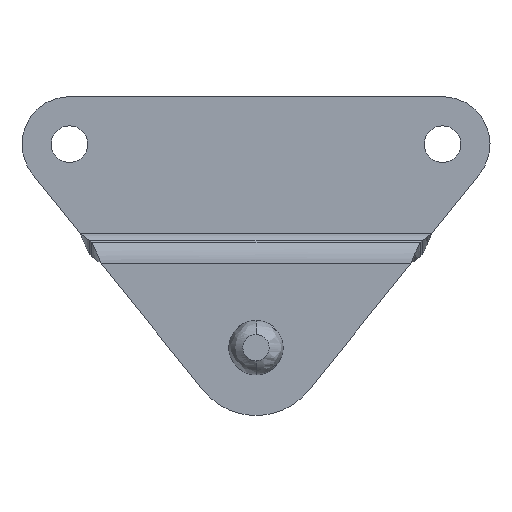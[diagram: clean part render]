
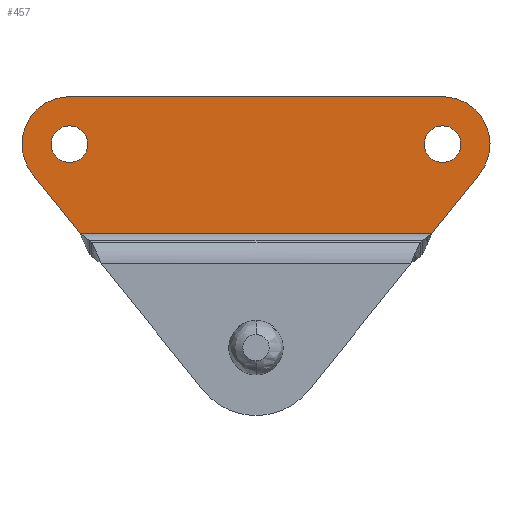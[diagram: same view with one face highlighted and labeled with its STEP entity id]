
A CAD part, front view. The second image highlights one B-rep face of the part: STEP entity #457.
In plain terms, the highlighted planar face has unit normal (0, -1, 0).
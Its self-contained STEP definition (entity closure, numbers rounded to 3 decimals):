
#9 = CARTESIAN_POINT ( 'NONE',  ( 62., -3., 0. ) ) ;
#17 = PLANE ( 'NONE',  #248 ) ;
#20 = VERTEX_POINT ( 'NONE', #1488 ) ;
#23 = VERTEX_POINT ( 'NONE', #475 ) ;
#25 = CARTESIAN_POINT ( 'NONE',  ( 1.551, -3., -11.394 ) ) ;
#31 = LINE ( 'NONE', #167, #1214 ) ;
#53 = EDGE_LOOP ( 'NONE', ( #1180, #1237 ) ) ;
#74 = EDGE_CURVE ( 'NONE', #933, #20, #860, .T. ) ;
#123 = ORIENTED_EDGE ( 'NONE', *, *, #630, .F. ) ;
#128 = CARTESIAN_POINT ( 'NONE',  ( 62., -3., -9.7 ) ) ;
#148 = AXIS2_PLACEMENT_3D ( 'NONE', #399, #516, #640 ) ;
#167 = CARTESIAN_POINT ( 'NONE',  ( 67.449, -3., -11.394 ) ) ;
#196 = DIRECTION ( 'NONE',  ( 0., -1., 0. ) ) ;
#211 = VERTEX_POINT ( 'NONE', #25 ) ;
#223 = VERTEX_POINT ( 'NONE', #1053 ) ;
#230 = AXIS2_PLACEMENT_3D ( 'NONE', #655, #196, #1451 ) ;
#238 = ORIENTED_EDGE ( 'NONE', *, *, #739, .F. ) ;
#243 = ORIENTED_EDGE ( 'NONE', *, *, #552, .F. ) ;
#248 = AXIS2_PLACEMENT_3D ( 'NONE', #252, #1044, #365 ) ;
#252 = CARTESIAN_POINT ( 'NONE',  ( 62., -3., -7. ) ) ;
#286 = DIRECTION ( 'NONE',  ( 0., 1., 0. ) ) ;
#289 = CIRCLE ( 'NONE', #641, 7. ) ;
#318 = CARTESIAN_POINT ( 'NONE',  ( 7., -3., -7. ) ) ;
#319 = CIRCLE ( 'NONE', #1223, 2.7 ) ;
#320 = CARTESIAN_POINT ( 'NONE',  ( 67.449, -3., -11.394 ) ) ;
#328 = ORIENTED_EDGE ( 'NONE', *, *, #447, .F. ) ;
#340 = CARTESIAN_POINT ( 'NONE',  ( 60.4, -3., -20.134 ) ) ;
#344 = EDGE_LOOP ( 'NONE', ( #1358, #328, #243, #644, #614, #1315 ) ) ;
#365 = DIRECTION ( 'NONE',  ( 0., 0., 1. ) ) ;
#399 = CARTESIAN_POINT ( 'NONE',  ( 7., -3., -7. ) ) ;
#404 = VERTEX_POINT ( 'NONE', #128 ) ;
#419 = CARTESIAN_POINT ( 'NONE',  ( 7., -3., 0. ) ) ;
#424 = CIRCLE ( 'NONE', #148, 2.7 ) ;
#447 = EDGE_CURVE ( 'NONE', #677, #223, #501, .T. ) ;
#455 = CIRCLE ( 'NONE', #230, 2.7 ) ;
#457 = ADVANCED_FACE ( 'NONE', ( #769, #992, #842 ), #17, .F. ) ;
#475 = CARTESIAN_POINT ( 'NONE',  ( 7., -3., -4.3 ) ) ;
#501 = LINE ( 'NONE', #9, #672 ) ;
#509 = AXIS2_PLACEMENT_3D ( 'NONE', #567, #1027, #814 ) ;
#516 = DIRECTION ( 'NONE',  ( 0., -1., 0. ) ) ;
#552 = EDGE_CURVE ( 'NONE', #211, #677, #1338, .T. ) ;
#567 = CARTESIAN_POINT ( 'NONE',  ( 62., -3., -7. ) ) ;
#614 = ORIENTED_EDGE ( 'NONE', *, *, #74, .F. ) ;
#630 = EDGE_CURVE ( 'NONE', #664, #23, #424, .T. ) ;
#634 = EDGE_CURVE ( 'NONE', #1356, #933, #31, .T. ) ;
#640 = DIRECTION ( 'NONE',  ( 0., 0., 1. ) ) ;
#641 = AXIS2_PLACEMENT_3D ( 'NONE', #964, #286, #843 ) ;
#644 = ORIENTED_EDGE ( 'NONE', *, *, #837, .F. ) ;
#655 = CARTESIAN_POINT ( 'NONE',  ( 62., -3., -7. ) ) ;
#664 = VERTEX_POINT ( 'NONE', #1078 ) ;
#672 = VECTOR ( 'NONE', #819, 1000. ) ;
#677 = VERTEX_POINT ( 'NONE', #419 ) ;
#686 = DIRECTION ( 'NONE',  ( -1., 0., 0. ) ) ;
#693 = VECTOR ( 'NONE', #1367, 1000. ) ;
#715 = DIRECTION ( 'NONE',  ( 0., 0., 1. ) ) ;
#734 = DIRECTION ( 'NONE',  ( 0., 1., 0. ) ) ;
#739 = EDGE_CURVE ( 'NONE', #23, #664, #319, .T. ) ;
#769 = FACE_OUTER_BOUND ( 'NONE', #344, .T. ) ;
#814 = DIRECTION ( 'NONE',  ( 0., 0., 1. ) ) ;
#819 = DIRECTION ( 'NONE',  ( 1., 0., 0. ) ) ;
#837 = EDGE_CURVE ( 'NONE', #20, #211, #844, .T. ) ;
#842 = FACE_BOUND ( 'NONE', #916, .T. ) ;
#843 = DIRECTION ( 'NONE',  ( 0., 0., 1. ) ) ;
#844 = LINE ( 'NONE', #1134, #693 ) ;
#860 = LINE ( 'NONE', #1370, #966 ) ;
#916 = EDGE_LOOP ( 'NONE', ( #238, #123 ) ) ;
#933 = VERTEX_POINT ( 'NONE', #340 ) ;
#964 = CARTESIAN_POINT ( 'NONE',  ( 62., -3., -7. ) ) ;
#966 = VECTOR ( 'NONE', #686, 1000. ) ;
#967 = DIRECTION ( 'NONE',  ( -0.628, 0., -0.778 ) ) ;
#992 = FACE_BOUND ( 'NONE', #53, .T. ) ;
#1027 = DIRECTION ( 'NONE',  ( 0., -1., 0. ) ) ;
#1044 = DIRECTION ( 'NONE',  ( 0., 1., 0. ) ) ;
#1053 = CARTESIAN_POINT ( 'NONE',  ( 62., -3., 0. ) ) ;
#1056 = EDGE_CURVE ( 'NONE', #223, #1356, #289, .T. ) ;
#1078 = CARTESIAN_POINT ( 'NONE',  ( 7., -3., -9.7 ) ) ;
#1092 = VERTEX_POINT ( 'NONE', #1406 ) ;
#1115 = DIRECTION ( 'NONE',  ( 0., 0., 1. ) ) ;
#1134 = CARTESIAN_POINT ( 'NONE',  ( 8.6, -3., -20.134 ) ) ;
#1180 = ORIENTED_EDGE ( 'NONE', *, *, #1263, .F. ) ;
#1214 = VECTOR ( 'NONE', #967, 1000. ) ;
#1223 = AXIS2_PLACEMENT_3D ( 'NONE', #318, #1228, #1115 ) ;
#1228 = DIRECTION ( 'NONE',  ( 0., -1., 0. ) ) ;
#1237 = ORIENTED_EDGE ( 'NONE', *, *, #1470, .F. ) ;
#1263 = EDGE_CURVE ( 'NONE', #1092, #404, #455, .T. ) ;
#1269 = AXIS2_PLACEMENT_3D ( 'NONE', #1402, #734, #715 ) ;
#1315 = ORIENTED_EDGE ( 'NONE', *, *, #634, .F. ) ;
#1338 = CIRCLE ( 'NONE', #1269, 7. ) ;
#1356 = VERTEX_POINT ( 'NONE', #320 ) ;
#1358 = ORIENTED_EDGE ( 'NONE', *, *, #1056, .F. ) ;
#1367 = DIRECTION ( 'NONE',  ( -0.628, 0., 0.778 ) ) ;
#1370 = CARTESIAN_POINT ( 'NONE',  ( 62., -3., -20.134 ) ) ;
#1402 = CARTESIAN_POINT ( 'NONE',  ( 7., -3., -7. ) ) ;
#1406 = CARTESIAN_POINT ( 'NONE',  ( 62., -3., -4.3 ) ) ;
#1435 = CIRCLE ( 'NONE', #509, 2.7 ) ;
#1451 = DIRECTION ( 'NONE',  ( 0., 0., 1. ) ) ;
#1470 = EDGE_CURVE ( 'NONE', #404, #1092, #1435, .T. ) ;
#1488 = CARTESIAN_POINT ( 'NONE',  ( 8.6, -3., -20.134 ) ) ;
